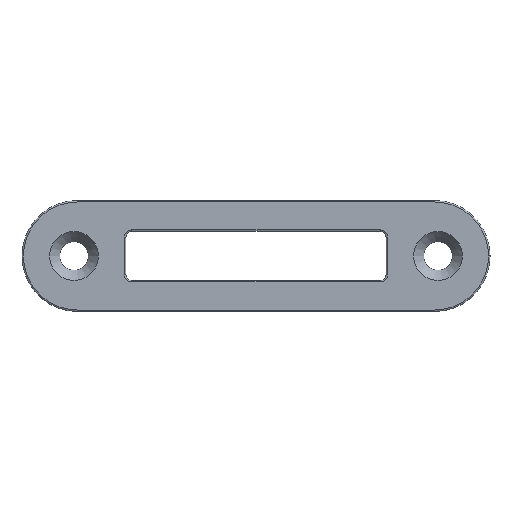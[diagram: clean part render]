
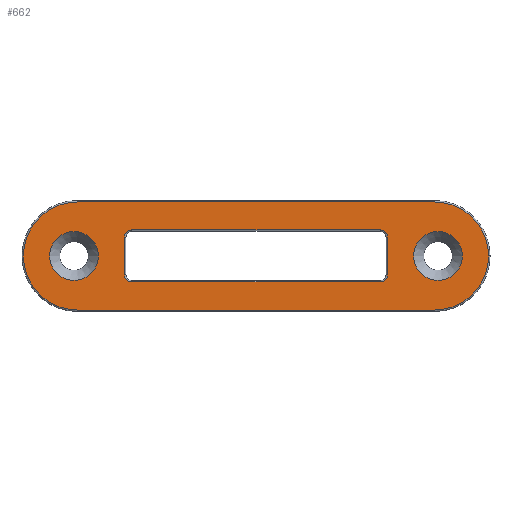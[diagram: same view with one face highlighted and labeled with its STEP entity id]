
A CAD part, top view. The second image highlights one B-rep face of the part: STEP entity #662.
In plain terms, the highlighted planar face has unit normal (0, 0, 1).
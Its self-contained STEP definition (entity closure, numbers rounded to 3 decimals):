
#14 = DIRECTION ( 'NONE',  ( 0., 1., 0. ) ) ;
#32 = CARTESIAN_POINT ( 'NONE',  ( 8.15, 12.85, 2. ) ) ;
#43 = LINE ( 'NONE', #413, #448 ) ;
#49 = EDGE_CURVE ( 'NONE', #224, #120, #459, .T. ) ;
#50 = DIRECTION ( 'NONE',  ( -1., 0., 0. ) ) ;
#55 = EDGE_LOOP ( 'NONE', ( #190, #450 ) ) ;
#64 = VERTEX_POINT ( 'NONE', #252 ) ;
#70 = DIRECTION ( 'NONE',  ( 1., 0., 0. ) ) ;
#73 = DIRECTION ( 'NONE',  ( 0., 0., -1. ) ) ;
#74 = ORIENTED_EDGE ( 'NONE', *, *, #288, .T. ) ;
#80 = CARTESIAN_POINT ( 'NONE',  ( 58.184, 9.6, 2. ) ) ;
#84 = CARTESIAN_POINT ( 'NONE',  ( 52.4, 6.35, 2. ) ) ;
#88 = CARTESIAN_POINT ( 'NONE',  ( 61.8, 9.6, 2. ) ) ;
#90 = CARTESIAN_POINT ( 'NONE',  ( 8.15, 6.35, 2. ) ) ;
#95 = CIRCLE ( 'NONE', #606, 9.35 ) ;
#107 = DIRECTION ( 'NONE',  ( 0., 0., 1. ) ) ;
#113 = EDGE_CURVE ( 'NONE', #518, #744, #407, .T. ) ;
#120 = VERTEX_POINT ( 'NONE', #866 ) ;
#130 = CIRCLE ( 'NONE', #645, 4.216 ) ;
#139 = EDGE_CURVE ( 'NONE', #660, #64, #772, .T. ) ;
#149 = ORIENTED_EDGE ( 'NONE', *, *, #187, .T. ) ;
#152 = DIRECTION ( 'NONE',  ( 0., 0., -1. ) ) ;
#153 = VERTEX_POINT ( 'NONE', #168 ) ;
#164 = DIRECTION ( 'NONE',  ( 1., 0., 0. ) ) ;
#168 = CARTESIAN_POINT ( 'NONE',  ( 9.4, 5.1, 2. ) ) ;
#179 = CARTESIAN_POINT ( 'NONE',  ( -0.6, 9.6, 2. ) ) ;
#180 = CARTESIAN_POINT ( 'NONE',  ( 53.65, 6.35, 2. ) ) ;
#182 = CARTESIAN_POINT ( 'NONE',  ( 52.4, 14.1, 2. ) ) ;
#187 = EDGE_CURVE ( 'NONE', #911, #840, #388, .T. ) ;
#190 = ORIENTED_EDGE ( 'NONE', *, *, #506, .F. ) ;
#192 = ORIENTED_EDGE ( 'NONE', *, *, #323, .T. ) ;
#197 = AXIS2_PLACEMENT_3D ( 'NONE', #515, #215, #823 ) ;
#206 = EDGE_LOOP ( 'NONE', ( #732, #821, #487, #655, #957 ) ) ;
#215 = DIRECTION ( 'NONE',  ( 0., 0., 1. ) ) ;
#221 = DIRECTION ( 'NONE',  ( 0., 0., 1. ) ) ;
#224 = VERTEX_POINT ( 'NONE', #90 ) ;
#225 = CARTESIAN_POINT ( 'NONE',  ( 0., 18.95, 2. ) ) ;
#236 = VERTEX_POINT ( 'NONE', #465 ) ;
#239 = FACE_BOUND ( 'NONE', #287, .T. ) ;
#243 = FACE_OUTER_BOUND ( 'NONE', #206, .T. ) ;
#248 = CIRCLE ( 'NONE', #810, 4.216 ) ;
#252 = CARTESIAN_POINT ( 'NONE',  ( 52.4, 14.1, 2. ) ) ;
#255 = CARTESIAN_POINT ( 'NONE',  ( 66.616, 9.6, 2. ) ) ;
#266 = VECTOR ( 'NONE', #604, 1000. ) ;
#269 = EDGE_CURVE ( 'NONE', #120, #660, #466, .T. ) ;
#274 = ORIENTED_EDGE ( 'NONE', *, *, #354, .T. ) ;
#277 = AXIS2_PLACEMENT_3D ( 'NONE', #580, #73, #677 ) ;
#282 = CARTESIAN_POINT ( 'NONE',  ( 3.616, 9.6, 2. ) ) ;
#287 = EDGE_LOOP ( 'NONE', ( #903, #192, #733, #149, #74, #274, #850, #717 ) ) ;
#288 = EDGE_CURVE ( 'NONE', #840, #153, #743, .T. ) ;
#291 = VECTOR ( 'NONE', #833, 1000. ) ;
#308 = AXIS2_PLACEMENT_3D ( 'NONE', #940, #107, #327 ) ;
#314 = DIRECTION ( 'NONE',  ( 1., 0., 0. ) ) ;
#318 = FACE_BOUND ( 'NONE', #492, .T. ) ;
#320 = ORIENTED_EDGE ( 'NONE', *, *, #673, .F. ) ;
#323 = EDGE_CURVE ( 'NONE', #64, #762, #709, .T. ) ;
#325 = CARTESIAN_POINT ( 'NONE',  ( 0., 9.6, 2. ) ) ;
#326 = DIRECTION ( 'NONE',  ( 1., 0., 0. ) ) ;
#327 = DIRECTION ( 'NONE',  ( 1., 0., 0. ) ) ;
#344 = CARTESIAN_POINT ( 'NONE',  ( 52.4, 5.1, 2. ) ) ;
#347 = VERTEX_POINT ( 'NONE', #369 ) ;
#354 = EDGE_CURVE ( 'NONE', #153, #224, #420, .T. ) ;
#369 = CARTESIAN_POINT ( 'NONE',  ( 71.15, 9.6, 2. ) ) ;
#376 = DIRECTION ( 'NONE',  ( 0., -1., 0. ) ) ;
#379 = VERTEX_POINT ( 'NONE', #80 ) ;
#388 = CIRCLE ( 'NONE', #971, 1.25 ) ;
#393 = DIRECTION ( 'NONE',  ( 0., 0., 1. ) ) ;
#407 = CIRCLE ( 'NONE', #308, 4.216 ) ;
#413 = CARTESIAN_POINT ( 'NONE',  ( 0., 18.95, 2. ) ) ;
#420 = CIRCLE ( 'NONE', #277, 1.25 ) ;
#421 = VERTEX_POINT ( 'NONE', #225 ) ;
#437 = EDGE_CURVE ( 'NONE', #762, #911, #751, .T. ) ;
#448 = VECTOR ( 'NONE', #50, 1000. ) ;
#449 = CARTESIAN_POINT ( 'NONE',  ( 9.4, 5.1, 2. ) ) ;
#450 = ORIENTED_EDGE ( 'NONE', *, *, #451, .F. ) ;
#451 = EDGE_CURVE ( 'NONE', #379, #893, #625, .T. ) ;
#459 = LINE ( 'NONE', #32, #808 ) ;
#465 = CARTESIAN_POINT ( 'NONE',  ( 61.8, 0.25, 2. ) ) ;
#466 = CIRCLE ( 'NONE', #959, 1.25 ) ;
#469 = CARTESIAN_POINT ( 'NONE',  ( 61.8, 18.95, 2. ) ) ;
#474 = PLANE ( 'NONE',  #690 ) ;
#478 = CARTESIAN_POINT ( 'NONE',  ( -4.816, 9.6, 2. ) ) ;
#485 = CARTESIAN_POINT ( 'NONE',  ( 53.65, 12.85, 2. ) ) ;
#487 = ORIENTED_EDGE ( 'NONE', *, *, #706, .T. ) ;
#492 = EDGE_LOOP ( 'NONE', ( #502, #320 ) ) ;
#494 = AXIS2_PLACEMENT_3D ( 'NONE', #573, #872, #813 ) ;
#502 = ORIENTED_EDGE ( 'NONE', *, *, #113, .F. ) ;
#506 = EDGE_CURVE ( 'NONE', #893, #379, #130, .T. ) ;
#515 = CARTESIAN_POINT ( 'NONE',  ( 0., 9.6, 2. ) ) ;
#517 = EDGE_CURVE ( 'NONE', #421, #646, #710, .T. ) ;
#518 = VERTEX_POINT ( 'NONE', #282 ) ;
#519 = CARTESIAN_POINT ( 'NONE',  ( 9.4, 12.85, 2. ) ) ;
#521 = DIRECTION ( 'NONE',  ( 0., 0., 1. ) ) ;
#526 = CIRCLE ( 'NONE', #494, 9.35 ) ;
#535 = DIRECTION ( 'NONE',  ( 1., 0., 0. ) ) ;
#541 = DIRECTION ( 'NONE',  ( 0., 0., 1. ) ) ;
#546 = VECTOR ( 'NONE', #314, 1000. ) ;
#573 = CARTESIAN_POINT ( 'NONE',  ( 61.8, 9.6, 2. ) ) ;
#580 = CARTESIAN_POINT ( 'NONE',  ( 9.4, 6.35, 2. ) ) ;
#594 = CARTESIAN_POINT ( 'NONE',  ( 62.4, 9.6, 2. ) ) ;
#604 = DIRECTION ( 'NONE',  ( 1., 0., 0. ) ) ;
#606 = AXIS2_PLACEMENT_3D ( 'NONE', #88, #946, #326 ) ;
#614 = DIRECTION ( 'NONE',  ( 0., 0., -1. ) ) ;
#625 = CIRCLE ( 'NONE', #739, 4.216 ) ;
#626 = VECTOR ( 'NONE', #376, 1000. ) ;
#645 = AXIS2_PLACEMENT_3D ( 'NONE', #679, #221, #896 ) ;
#646 = VERTEX_POINT ( 'NONE', #936 ) ;
#655 = ORIENTED_EDGE ( 'NONE', *, *, #878, .T. ) ;
#660 = VERTEX_POINT ( 'NONE', #707 ) ;
#662 = ADVANCED_FACE ( 'NONE', ( #239, #243, #318, #857 ), #474, .T. ) ;
#665 = CARTESIAN_POINT ( 'NONE',  ( 52.4, 12.85, 2. ) ) ;
#673 = EDGE_CURVE ( 'NONE', #744, #518, #248, .T. ) ;
#677 = DIRECTION ( 'NONE',  ( 1., 0., 0. ) ) ;
#679 = CARTESIAN_POINT ( 'NONE',  ( 62.4, 9.6, 2. ) ) ;
#690 = AXIS2_PLACEMENT_3D ( 'NONE', #325, #541, #948 ) ;
#706 = EDGE_CURVE ( 'NONE', #646, #236, #790, .T. ) ;
#707 = CARTESIAN_POINT ( 'NONE',  ( 9.4, 14.1, 2. ) ) ;
#709 = CIRCLE ( 'NONE', #890, 1.25 ) ;
#710 = CIRCLE ( 'NONE', #197, 9.35 ) ;
#717 = ORIENTED_EDGE ( 'NONE', *, *, #269, .T. ) ;
#732 = ORIENTED_EDGE ( 'NONE', *, *, #816, .T. ) ;
#733 = ORIENTED_EDGE ( 'NONE', *, *, #437, .T. ) ;
#739 = AXIS2_PLACEMENT_3D ( 'NONE', #594, #521, #912 ) ;
#743 = LINE ( 'NONE', #449, #291 ) ;
#744 = VERTEX_POINT ( 'NONE', #478 ) ;
#751 = LINE ( 'NONE', #982, #626 ) ;
#761 = DIRECTION ( 'NONE',  ( 1., 0., 0. ) ) ;
#762 = VERTEX_POINT ( 'NONE', #485 ) ;
#772 = LINE ( 'NONE', #182, #546 ) ;
#783 = CARTESIAN_POINT ( 'NONE',  ( 61.8, 0.25, 2. ) ) ;
#790 = LINE ( 'NONE', #783, #266 ) ;
#808 = VECTOR ( 'NONE', #14, 1000. ) ;
#810 = AXIS2_PLACEMENT_3D ( 'NONE', #179, #393, #535 ) ;
#813 = DIRECTION ( 'NONE',  ( 1., 0., 0. ) ) ;
#816 = EDGE_CURVE ( 'NONE', #926, #421, #43, .T. ) ;
#821 = ORIENTED_EDGE ( 'NONE', *, *, #517, .T. ) ;
#823 = DIRECTION ( 'NONE',  ( 1., 0., 0. ) ) ;
#825 = EDGE_CURVE ( 'NONE', #347, #926, #526, .T. ) ;
#833 = DIRECTION ( 'NONE',  ( -1., 0., 0. ) ) ;
#840 = VERTEX_POINT ( 'NONE', #344 ) ;
#850 = ORIENTED_EDGE ( 'NONE', *, *, #49, .T. ) ;
#857 = FACE_BOUND ( 'NONE', #55, .T. ) ;
#866 = CARTESIAN_POINT ( 'NONE',  ( 8.15, 12.85, 2. ) ) ;
#872 = DIRECTION ( 'NONE',  ( 0., 0., 1. ) ) ;
#878 = EDGE_CURVE ( 'NONE', #236, #347, #95, .T. ) ;
#890 = AXIS2_PLACEMENT_3D ( 'NONE', #665, #977, #761 ) ;
#893 = VERTEX_POINT ( 'NONE', #255 ) ;
#896 = DIRECTION ( 'NONE',  ( 1., 0., 0. ) ) ;
#903 = ORIENTED_EDGE ( 'NONE', *, *, #139, .T. ) ;
#911 = VERTEX_POINT ( 'NONE', #180 ) ;
#912 = DIRECTION ( 'NONE',  ( 1., 0., 0. ) ) ;
#926 = VERTEX_POINT ( 'NONE', #469 ) ;
#936 = CARTESIAN_POINT ( 'NONE',  ( 0., 0.25, 2. ) ) ;
#940 = CARTESIAN_POINT ( 'NONE',  ( -0.6, 9.6, 2. ) ) ;
#946 = DIRECTION ( 'NONE',  ( 0., 0., 1. ) ) ;
#948 = DIRECTION ( 'NONE',  ( 1., 0., 0. ) ) ;
#957 = ORIENTED_EDGE ( 'NONE', *, *, #825, .T. ) ;
#959 = AXIS2_PLACEMENT_3D ( 'NONE', #519, #152, #70 ) ;
#971 = AXIS2_PLACEMENT_3D ( 'NONE', #84, #614, #164 ) ;
#977 = DIRECTION ( 'NONE',  ( 0., 0., -1. ) ) ;
#982 = CARTESIAN_POINT ( 'NONE',  ( 53.65, 6.35, 2. ) ) ;
